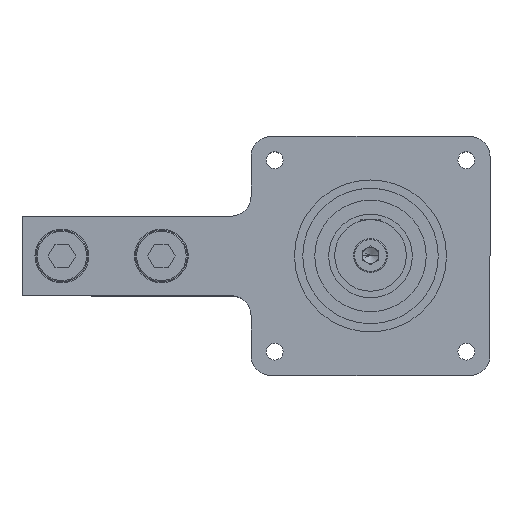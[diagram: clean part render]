
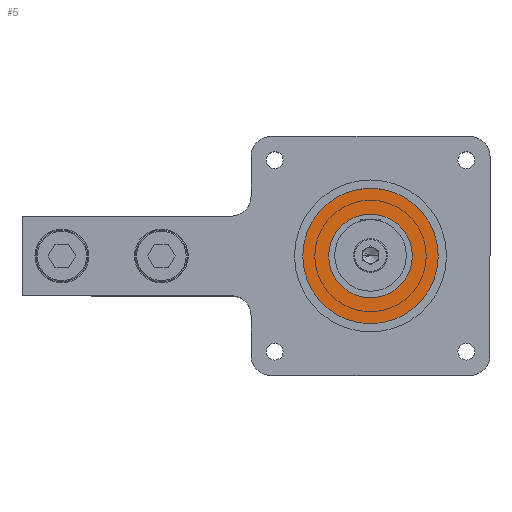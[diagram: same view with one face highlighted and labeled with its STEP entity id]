
A CAD part, top view. The second image highlights one B-rep face of the part: STEP entity #5.
In plain terms, the highlighted planar face has unit normal (0, 0, 1).
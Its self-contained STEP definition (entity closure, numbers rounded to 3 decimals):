
#5 = ADVANCED_FACE ( 'NONE', ( #12804, #3022 ), #4066, .F. ) ;
#279 = DIRECTION ( 'NONE',  ( 0., 0., 1. ) ) ;
#616 = EDGE_CURVE ( 'NONE', #13625, #8714, #4905, .T. ) ;
#924 = CARTESIAN_POINT ( 'NONE',  ( -10.5, 0., 5.5 ) ) ;
#989 = AXIS2_PLACEMENT_3D ( 'NONE', #5340, #14190, #5253 ) ;
#1066 = DIRECTION ( 'NONE',  ( 1., 0., 0. ) ) ;
#1116 = ORIENTED_EDGE ( 'NONE', *, *, #1368, .T. ) ;
#1368 = EDGE_CURVE ( 'NONE', #12478, #4750, #10122, .T. ) ;
#1584 = AXIS2_PLACEMENT_3D ( 'NONE', #3180, #14504, #1066 ) ;
#1663 = AXIS2_PLACEMENT_3D ( 'NONE', #2977, #3982, #7400 ) ;
#2165 = DIRECTION ( 'NONE',  ( 1., 0., 0. ) ) ;
#2977 = CARTESIAN_POINT ( 'NONE',  ( 0., 0., 5.5 ) ) ;
#3022 = FACE_OUTER_BOUND ( 'NONE', #4912, .T. ) ;
#3180 = CARTESIAN_POINT ( 'NONE',  ( 0., 0., 5.5 ) ) ;
#3336 = EDGE_LOOP ( 'NONE', ( #4428, #12382 ) ) ;
#3570 = EDGE_CURVE ( 'NONE', #4750, #12478, #9781, .T. ) ;
#3982 = DIRECTION ( 'NONE',  ( 0., 0., 1. ) ) ;
#4066 = PLANE ( 'NONE',  #989 ) ;
#4428 = ORIENTED_EDGE ( 'NONE', *, *, #13542, .F. ) ;
#4750 = VERTEX_POINT ( 'NONE', #5594 ) ;
#4905 = CIRCLE ( 'NONE', #1663, 10.5 ) ;
#4912 = EDGE_LOOP ( 'NONE', ( #9397, #1116 ) ) ;
#5253 = DIRECTION ( 'NONE',  ( -1., 0., 0. ) ) ;
#5340 = CARTESIAN_POINT ( 'NONE',  ( -17., 0., 5.5 ) ) ;
#5552 = CARTESIAN_POINT ( 'NONE',  ( 0., 0., 5.5 ) ) ;
#5594 = CARTESIAN_POINT ( 'NONE',  ( 17., 0., 5.5 ) ) ;
#7164 = DIRECTION ( 'NONE',  ( 1., 0., 0. ) ) ;
#7400 = DIRECTION ( 'NONE',  ( 1., 0., 0. ) ) ;
#7652 = CARTESIAN_POINT ( 'NONE',  ( 10.5, 0., 5.5 ) ) ;
#8688 = AXIS2_PLACEMENT_3D ( 'NONE', #5552, #13374, #2165 ) ;
#8714 = VERTEX_POINT ( 'NONE', #7652 ) ;
#9397 = ORIENTED_EDGE ( 'NONE', *, *, #3570, .T. ) ;
#9781 = CIRCLE ( 'NONE', #8688, 17. ) ;
#10122 = CIRCLE ( 'NONE', #14153, 17. ) ;
#10203 = CIRCLE ( 'NONE', #1584, 10.5 ) ;
#10392 = CARTESIAN_POINT ( 'NONE',  ( -17., 0., 5.5 ) ) ;
#12382 = ORIENTED_EDGE ( 'NONE', *, *, #616, .F. ) ;
#12478 = VERTEX_POINT ( 'NONE', #10392 ) ;
#12804 = FACE_BOUND ( 'NONE', #3336, .T. ) ;
#13374 = DIRECTION ( 'NONE',  ( 0., 0., 1. ) ) ;
#13542 = EDGE_CURVE ( 'NONE', #8714, #13625, #10203, .T. ) ;
#13625 = VERTEX_POINT ( 'NONE', #924 ) ;
#13739 = CARTESIAN_POINT ( 'NONE',  ( 0., 0., 5.5 ) ) ;
#14153 = AXIS2_PLACEMENT_3D ( 'NONE', #13739, #279, #7164 ) ;
#14190 = DIRECTION ( 'NONE',  ( 0., 0., -1. ) ) ;
#14504 = DIRECTION ( 'NONE',  ( 0., 0., 1. ) ) ;
